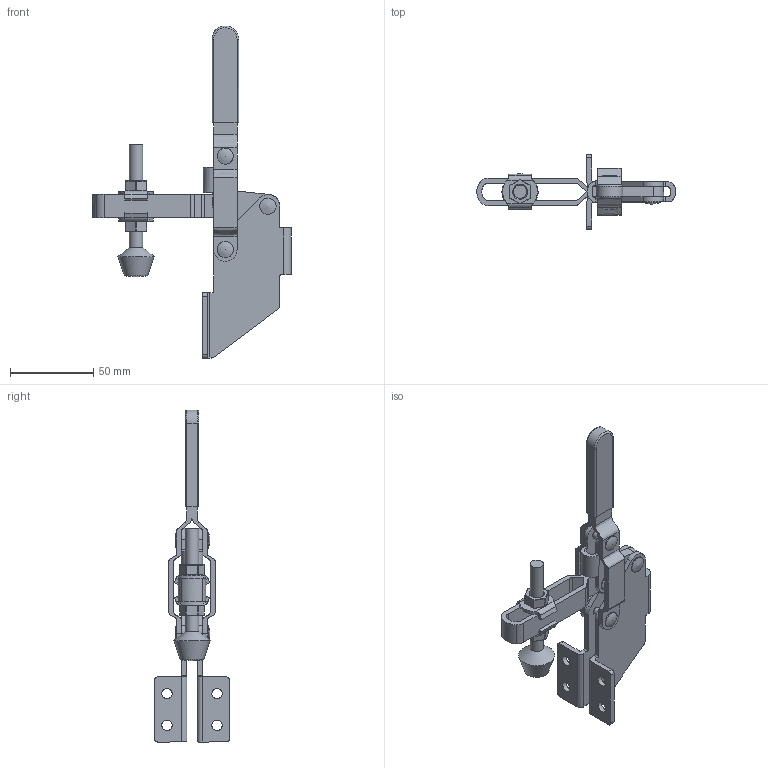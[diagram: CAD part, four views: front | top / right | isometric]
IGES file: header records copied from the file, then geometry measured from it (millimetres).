
Global section: file name: DR_018-11A; native system: Autodesk Inventor 2015; preprocessor: unknown; author: Administrator; date: 20180302.133514; units: millimetre
Bounding box: 118.99 x 45 x 198.99 mm (x, y, z)
Volume: 61482.3 mm3; surface area: 42617.1 mm2
Topology: 9 solids, 9 shells, 331 faces, 850 edges, 541 vertices
Faces by surface type: bspline 331
